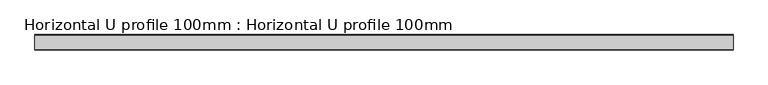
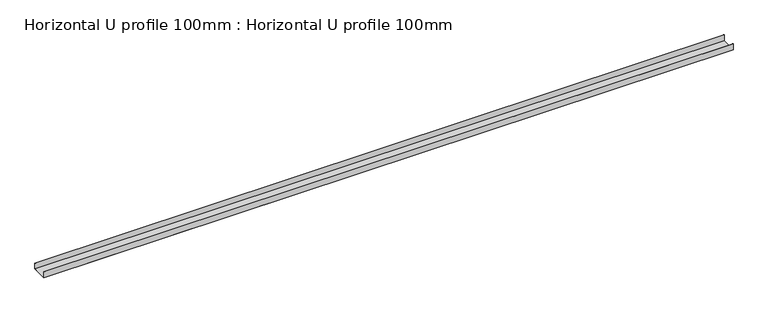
"""IFC4 building model written with IfcOpenShell, lengths in millimetres: proxy geometry, Horizontal U profile 100mm : Horizontal U profile 100mm."""

from ifc_helpers import new_model, si_unit, frame, origin, place, context, project, spatial, polyline, outline, extrude, source, transform, mapped, element, save


def horizontal_u_profile_100mm_horizontal_u_profile_100mm_0573b685(model_context):
    return source(origin(), model_context, "Body", "SweptSolid", [
        extrude(outline(polyline([(-50.0, 0.0), (-50.0, 40.0), (-49.2, 40.0), (-49.2, 0.8), (49.2, 0.8), (49.2, 40.0), (50.0, 40.0), (50.0, 0.0), (-50.0, 0.0)])), frame((0.0, 0.0, 0.0), z_axis=(1.0, 0.0, 0.0), x_axis=(0.0, 1.0, 0.0)), (0.0, 0.0, 1.0), 4480.0),
    ])


if __name__ == "__main__":
    model = new_model("IFC4")
    model_context = context("Model", 3, world=origin())
    ifc_project = project(units=[si_unit("LENGTHUNIT", "METRE", prefix="MILLI")], contexts=[model_context])
    site = spatial("IfcSite", under=ifc_project)
    building = spatial("IfcBuilding", under=site)
    placement = place(None, origin())
    horizontal_u_profile_100mm_horizontal_u_profile_100mm_shape = horizontal_u_profile_100mm_horizontal_u_profile_100mm_0573b685(model_context)
    element("IfcBuildingElementProxy", 1, Name="Horizontal U profile 100mm : Horizontal U profile 100mm", ObjectType="Horizontal U profile 100mm : Horizontal U profile 100mm", at=placement, inside=building, context=model_context, shape_type="MappedRepresentation", body=[
        mapped(horizontal_u_profile_100mm_horizontal_u_profile_100mm_shape, transform((0.0, 0.0, 0.0), x_axis=(1.0, 0.0, 0.0), y_axis=(0.0, 1.0, 0.0), z_axis=(0.0, 0.0, 1.0))),
    ])
    save(model, "model.ifc")
